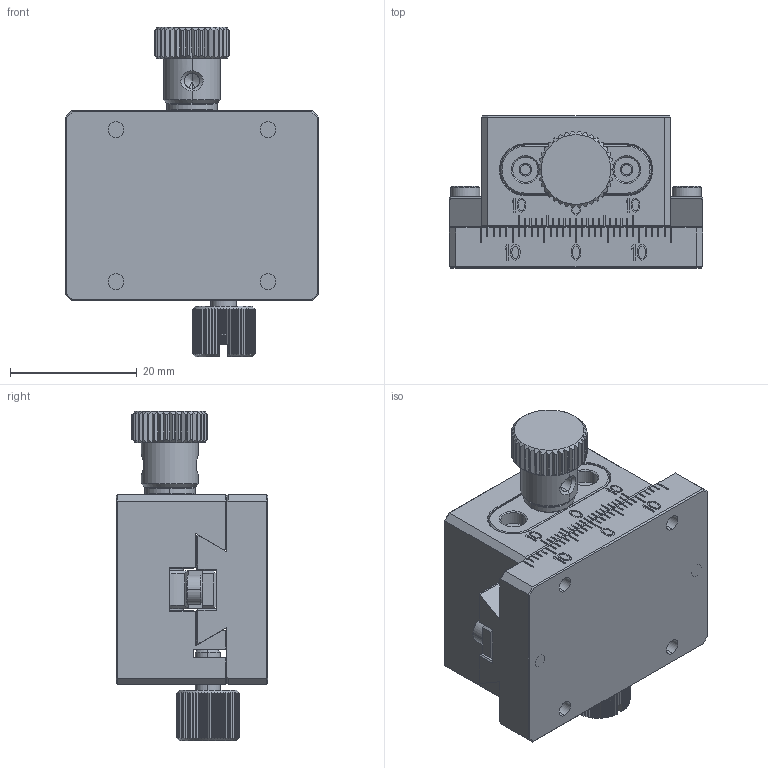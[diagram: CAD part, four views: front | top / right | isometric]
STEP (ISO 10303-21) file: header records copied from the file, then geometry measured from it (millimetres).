
FILE_DESCRIPTION((''),'2;1');
FILE_NAME('ASSY-30-ST20_ASM','2021-12-23T21:08:26',('windows10'),(''),'CREO PARAMETRIC BY PTC INC, 2018260','CREO PARAMETRIC BY PTC INC, 2018260','');
FILE_SCHEMA(('CONFIG_CONTROL_DESIGN'));
Length unit declared in the file: millimetre
Products named in the file (12): BOTTOM-30-40-M; RACK-6-5-40; 2D5-6; TOP-30-30-F; PINION-4-25; HOLDER-PINION-3; WASHER-8-4-1D4; HANDLE-12-12; ASSY-HANDLE-12-28D2_ASM; ASSY-TOP-30-30-F_ASM; STOPPER-10-M4-14D5; ASSY-30-ST20_ASM
Assembly tree (12 placements, depth 4):
  ASSY-30-ST20_ASM
    BOTTOM-30-40-M
    RACK-6-5-40
    2D5-6  x2
    ASSY-TOP-30-30-F_ASM
      TOP-30-30-F
      ASSY-HANDLE-12-28D2_ASM
        PINION-4-25
        HOLDER-PINION-3
        WASHER-8-4-1D4
        HANDLE-12-12
    STOPPER-10-M4-14D5
Bounding box: 40 x 24 x 52.09 mm (x, y, z)
Volume: 24211.5 mm3; surface area: 13918.5 mm2
Topology: 10 solids, 10 shells, 1214 faces, 3307 edges, 2148 vertices
Faces by surface type: plane 898, cylinder 206, cone 106, bspline 4
Entity records: 38977 total; most frequent: CARTESIAN_POINT 8811, ORIENTED_EDGE 6514, DIRECTION 5785, EDGE_CURVE 3257, VECTOR 2361, LINE 2361, VERTEX_POINT 2122, AXIS2_PLACEMENT_3D 1712
